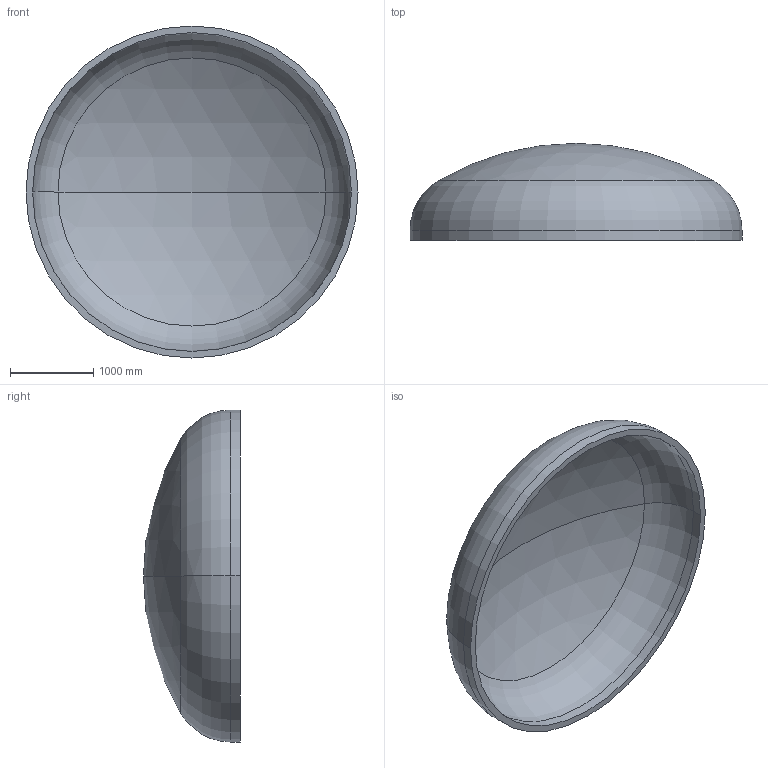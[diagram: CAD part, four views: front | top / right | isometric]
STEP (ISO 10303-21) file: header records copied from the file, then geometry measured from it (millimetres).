
FILE_DESCRIPTION (( 'STEP AP203' ), '1' );
FILE_NAME ('DIN 28013 Korbbogenform_-_Boden DIN 28013 - 4000 x 120 - I - s=80.step', '2016-07-01T22:41:05', ( '' ), ( '' ), 'SwSTEP 2.0', 'SolidWorks 2013', '' );
FILE_SCHEMA (( 'CONFIG_CONTROL_DESIGN' ));
Length unit declared in the file: millimetre
Products named in the file (1): DIN 28013 Korbbogenform_-_Boden DIN 28013 - 4000 x 120 - I - s=80
Bounding box: 4000 x 1168.59 x 4000 mm (x, y, z)
Volume: 1473944614 mm3; surface area: 37847210 mm2
Topology: 1 solids, 1 shells, 13 faces, 24 edges, 14 vertices
Faces by surface type: torus 4, cylinder 4, sphere 4, plane 1
Entity records: 407 total; most frequent: DIRECTION 72, CARTESIAN_POINT 52, ORIENTED_EDGE 48, AXIS2_PLACEMENT_3D 34, EDGE_CURVE 24, CIRCLE 20, EDGE_LOOP 14, VERTEX_POINT 14
